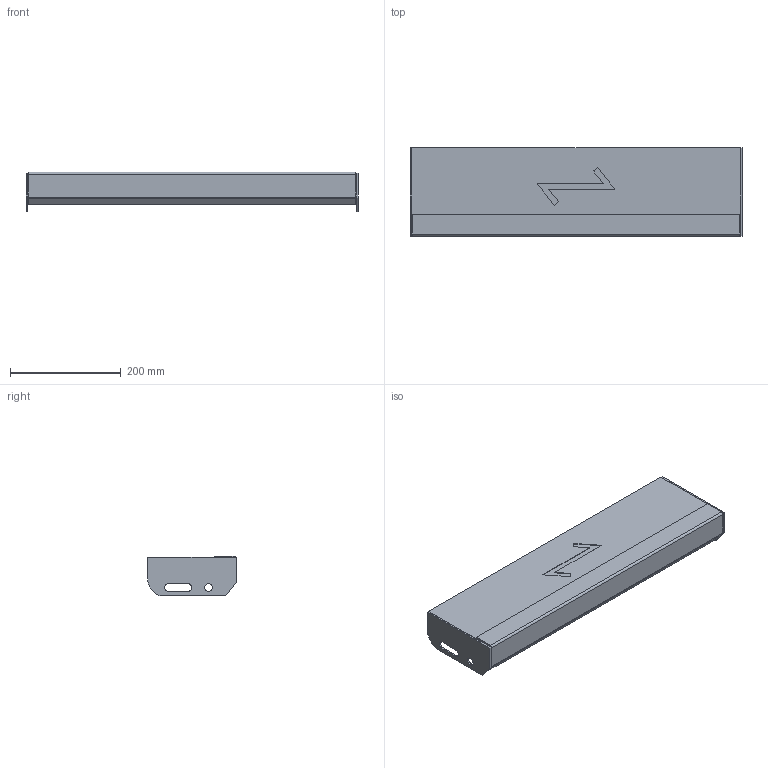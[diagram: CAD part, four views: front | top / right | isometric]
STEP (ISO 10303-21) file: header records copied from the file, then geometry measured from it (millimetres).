
FILE_DESCRIPTION (( 'STEP AP203' ), '1' );
FILE_NAME ('StegTH6-S-nya_steget-600x160.STEP', '2020-03-04T07:41:20', ( '' ), ( '' ), 'SwSTEP 2.0', 'SolidWorks 2019', '' );
FILE_SCHEMA (( 'CONFIG_CONTROL_DESIGN' ));
Length unit declared in the file: millimetre
Products named in the file (5): SW0000039239; SW0000039399; SW0000038762; SW0000038696; StegTH6-S-nya_steget-600x160
Assembly tree (5 placements, depth 3):
  StegTH6-S-nya_steget-600x160
    SW0000039399
      SW0000038762
      SW0000039239
      SW0000038696  x2
Bounding box: 600 x 160 x 72 mm (x, y, z)
Volume: 1837277.4 mm3; surface area: 358533.8 mm2
Topology: 4 solids, 4 shells, 67 faces, 158 edges, 100 vertices
Faces by surface type: plane 51, cylinder 16
Entity records: 2002 total; most frequent: DIRECTION 261, CARTESIAN_POINT 254, ORIENTED_EDGE 238, EDGE_CURVE 119, VECTOR 99, LINE 99, AXIS2_PLACEMENT_3D 81, VERTEX_POINT 74
